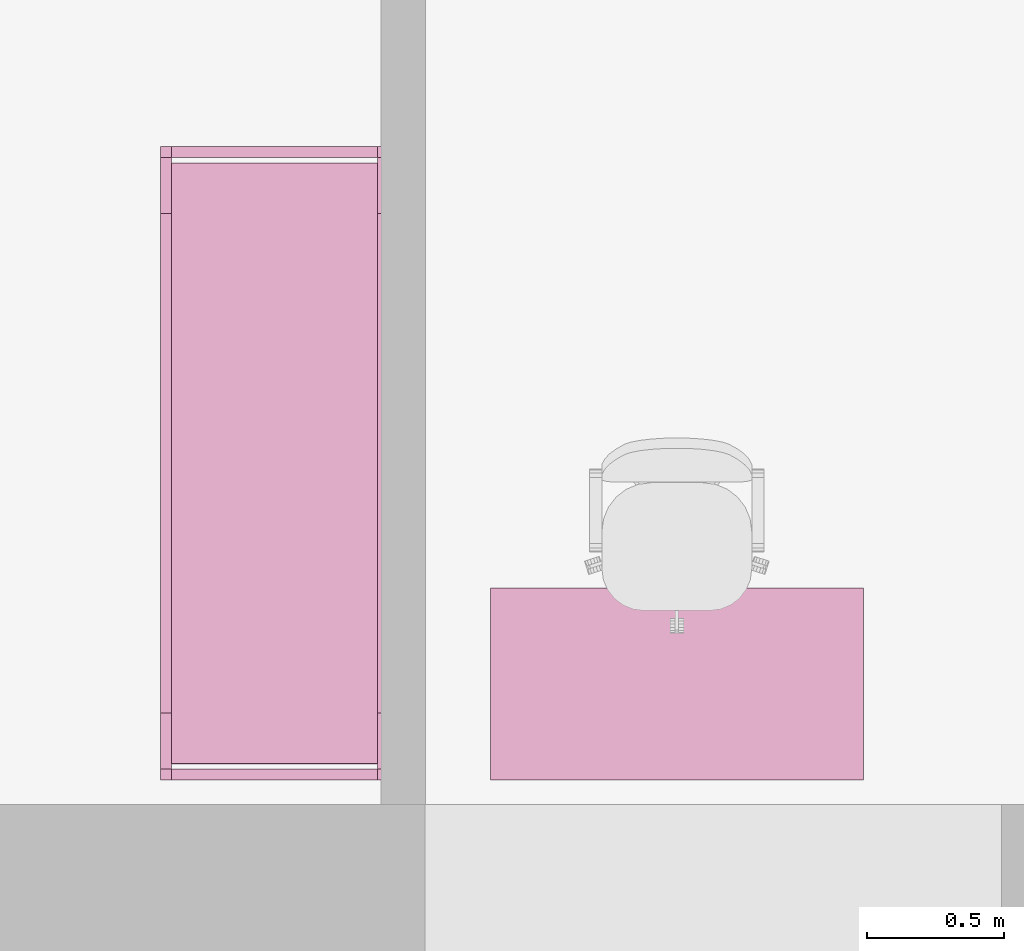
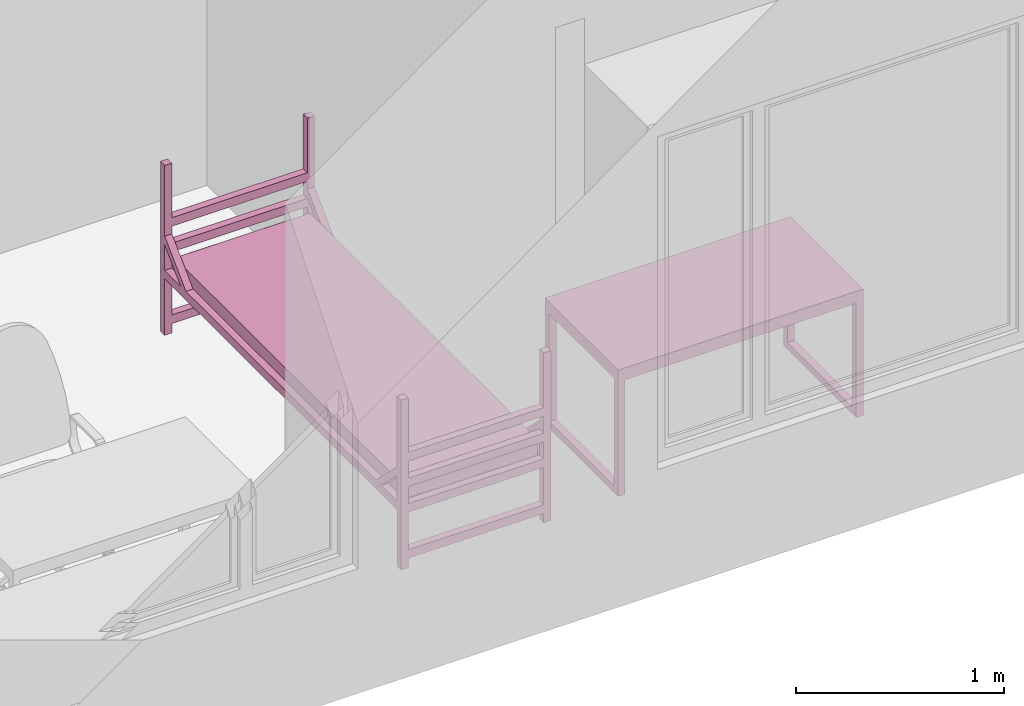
# One storey, part 34 of 46: 2 furnishings.
"""IFC2X3 building model written with IfcOpenShell, lengths in millimetres."""

import ifcopenshell
import ifcopenshell.guid

model = None  # the IFC model being written
_history = None  # IfcOwnerHistory: only IFC2X3 demands one
_inside = {}  # id of a spatial element -> (the spatial element, [elements in it])
_under = {}  # id of a project, library or spatial element -> (it, [spatial elements below it])
_declared = {}  # id of a project -> (the project, [libraries it declares])
_typed = {}  # id of a type object -> (the type object, [elements of that type])
_made_of = {}  # id of a material, layer set ... -> (it, [elements and type objects made of it])


def new_model(schema):
    """Start an empty IFC model of exactly this schema.

    Asked for "IFC4X3", IfcOpenShell would pick the latest addendum, in which some entities
    have other attributes; the version numbers below select the first issue.
    IFC2X3 requires an IfcOwnerHistory on every rooted entity: one is made here for all.
    """
    global model, _history
    if schema == "IFC4X3":
        model = ifcopenshell.file(schema_version=(4, 3, 0, 0))
    else:
        model = ifcopenshell.file(schema=schema)
    _inside.clear()
    _under.clear()
    _declared.clear()
    _typed.clear()
    _made_of.clear()
    _history = None
    if model.schema == "IFC2X3":
        org = make("IfcOrganization", Name="unknown")
        user = make(
            "IfcPersonAndOrganization",
            ThePerson=make("IfcPerson", FamilyName="unknown"),
            TheOrganization=org,
        )
        app = make(
            "IfcApplication",
            ApplicationDeveloper=org,
            Version="unknown",
            ApplicationFullName="unknown",
            ApplicationIdentifier="unknown",
        )
        _history = make(
            "IfcOwnerHistory",
            OwningUser=user,
            OwningApplication=app,
            ChangeAction="ADDED",
            CreationDate=0,
        )
    return model


def make(cls, **values):
    """One entity of the class cls with the attributes given. An attribute that is None is left unset."""
    return model.create_entity(
        cls, **{name: value for name, value in values.items() if value is not None}
    )


def entity(cls, *values):
    """Any entity or typed value of the class cls, its attributes in the order of the schema. None: left unset."""
    e = model.create_entity(cls)
    for i, value in enumerate(values):
        if value is not None:
            e[i] = value
    return e


def rooted(cls, **values):
    """An entity with a GlobalId (a new one), such as an element, a storey or a relation."""
    return make(cls, GlobalId=ifcopenshell.guid.new(), OwnerHistory=_history, **values)


def si_unit(unit_type, name, prefix=None):
    """IfcSIUnit, for example si_unit("LENGTHUNIT", "METRE", prefix="MILLI")."""
    return make("IfcSIUnit", UnitType=unit_type, Prefix=prefix, Name=name)


def converted_unit(unit_type, name, factor, base, dimensions=None, offset=None):
    """IfcConversionBasedUnit, such as the inch: factor (a typed value) times the base unit."""
    return make(
        "IfcConversionBasedUnit"
        if offset is None
        else "IfcConversionBasedUnitWithOffset",
        ConversionOffset=offset,
        Dimensions=None
        if dimensions is None
        else entity("IfcDimensionalExponents", *dimensions),
        UnitType=unit_type,
        Name=name,
        ConversionFactor=make(
            "IfcMeasureWithUnit", ValueComponent=factor, UnitComponent=base
        ),
    )


def derived_unit(unit_type, elements):
    """IfcDerivedUnit: a product of units, each with its exponent."""
    return make(
        "IfcDerivedUnit",
        Elements=[
            make("IfcDerivedUnitElement", Unit=unit, Exponent=power)
            for unit, power in elements
        ],
        UnitType=unit_type,
    )


def assignment(units):
    """IfcUnitAssignment: the units of a project."""
    return None if units is None else make("IfcUnitAssignment", Units=units)


def point(xyz):
    """IfcCartesianPoint."""
    return None if xyz is None else make("IfcCartesianPoint", Coordinates=xyz)


def direction(xyz):
    """IfcDirection."""
    return None if xyz is None else make("IfcDirection", DirectionRatios=xyz)


def frame(location, z_axis=None, x_axis=None):
    """IfcAxis2Placement3D, a coordinate frame: its origin and axes. An axis left out is left unset."""
    return make(
        "IfcAxis2Placement3D",
        Location=point(location),
        Axis=direction(z_axis),
        RefDirection=direction(x_axis),
    )


def frame_2d(location, x_axis=None):
    """IfcAxis2Placement2D, a coordinate frame in the plane: its origin and x axis."""
    return make(
        "IfcAxis2Placement2D", Location=point(location), RefDirection=direction(x_axis)
    )


def origin():
    """The frame at (0, 0, 0) with its axes left unset."""
    return frame((0.0, 0.0, 0.0))


def place(relative_to, where):
    """IfcLocalPlacement: puts the frame where relative to a parent placement (None: the world)."""
    return make(
        "IfcLocalPlacement", PlacementRelTo=relative_to, RelativePlacement=where
    )


def context(
    kind, dimensions, precision=None, world=None, true_north=None, identifier=None
):
    """IfcGeometricRepresentationContext, for example the 3D "Model" context."""
    return make(
        "IfcGeometricRepresentationContext",
        ContextIdentifier=identifier,
        ContextType=kind,
        CoordinateSpaceDimension=dimensions,
        Precision=precision,
        WorldCoordinateSystem=world,
        TrueNorth=true_north,
    )


def subcontext(parent, identifier, kind, view, scale=None):
    """IfcGeometricRepresentationSubContext, for example "Body" below "Model"."""
    return make(
        "IfcGeometricRepresentationSubContext",
        ContextIdentifier=identifier,
        ContextType=kind,
        ParentContext=parent,
        TargetScale=scale,
        TargetView=view,
    )


def project(units=None, contexts=None):
    """IfcProject with its units and contexts."""
    return rooted(
        "IfcProject",
        Name="project",
        RepresentationContexts=contexts,
        UnitsInContext=assignment(units),
    )


def spatial(cls, under=None, at=None, **own):
    """A site, building, storey or space (cls), placed at a placement, below another one or the project."""
    s = rooted(cls, ObjectPlacement=at, **own)
    if under is not None:
        _under.setdefault(under.id(), (under, []))[1].append(s)
    return s


def polyline(points):
    """IfcPolyline through the points."""
    return make("IfcPolyline", Points=[point(p) for p in points])


def circle_curve(where, radius):
    """IfcCircle in the frame where."""
    return make("IfcCircle", Position=where, Radius=radius)


def parameter(value):
    """IfcParameterValue: where a trimmed curve begins or ends, as a parameter of its basis curve."""
    return model.create_entity("IfcParameterValue", value)


def trimmed(basis, trim1, trim2, sense, master):
    """IfcTrimmedCurve: the piece of a basis curve between two trims."""
    return make(
        "IfcTrimmedCurve",
        BasisCurve=basis,
        Trim1=trim1,
        Trim2=trim2,
        SenseAgreement=sense,
        MasterRepresentation=master,
    )


def segment(curve, same_sense, transition):
    """IfcCompositeCurveSegment."""
    return make(
        "IfcCompositeCurveSegment",
        Transition=transition,
        SameSense=same_sense,
        ParentCurve=curve,
    )


def composite_curve(segments, self_intersect=None):
    """IfcCompositeCurve: segments joined end to end."""
    return make("IfcCompositeCurve", Segments=segments, SelfIntersect=self_intersect)


def profile(cls, at=None, kind="AREA", **sizes):
    """A parametric profile (cls). Its sizes go by their IFC names, for example OverallWidth=200.0."""
    return make(cls, ProfileType=kind, Position=at, **sizes)


def rectangle(**sizes):
    """IfcRectangleProfileDef."""
    return profile("IfcRectangleProfileDef", **sizes)


def outline(outer, holes=None, kind="AREA"):
    """IfcArbitraryClosedProfileDef: a profile drawn as a closed curve; with holes, ...WithVoids."""
    if holes is None:
        return make("IfcArbitraryClosedProfileDef", ProfileType=kind, OuterCurve=outer)
    return make(
        "IfcArbitraryProfileDefWithVoids",
        ProfileType=kind,
        OuterCurve=outer,
        InnerCurves=holes,
    )


def extrude(swept, where, along, depth):
    """IfcExtrudedAreaSolid: the profile swept, set in the frame where, extruded along a direction by depth."""
    return make(
        "IfcExtrudedAreaSolid",
        SweptArea=swept,
        Position=where,
        ExtrudedDirection=direction(along),
        Depth=depth,
    )


def faces_of(points, faces, orient=None, outer=None):
    """IfcFace entities. A face is a list of loops; a loop is a list of indices into points, from 0.

    orient and outer hold one flag for each loop. By default every Orientation is true, the
    first loop of a face is its IfcFaceOuterBound and the others are IfcFaceBound.
    """
    made = []
    for i, loops in enumerate(faces):
        bounds = []
        for j, loop in enumerate(loops):
            is_outer = j == 0 if outer is None else outer[i][j]
            bounds.append(
                make(
                    "IfcFaceOuterBound" if is_outer else "IfcFaceBound",
                    Bound=make("IfcPolyLoop", Polygon=[points[k] for k in loop]),
                    Orientation=True if orient is None else orient[i][j],
                )
            )
        made.append(make("IfcFace", Bounds=bounds))
    return made


def faceted_brep(points, faces, orient=None, outer=None, voids=None):
    """IfcFacetedBrep: a solid bounded by flat faces; with voids (closed shells), ...WithVoids."""
    shared = [point(p) for p in points]
    hull = make("IfcClosedShell", CfsFaces=faces_of(shared, faces, orient, outer))
    if voids is None:
        return make("IfcFacetedBrep", Outer=hull)
    return make(
        "IfcFacetedBrepWithVoids",
        Outer=hull,
        Voids=[
            make(cls, CfsFaces=faces_of(shared, fs, o, b)) for cls, fs, o, b in voids
        ],
    )


def shape(context_of_items, identifier, shape_type, items):
    """IfcShapeRepresentation: the items that make up one representation, for example the "Body"."""
    return make(
        "IfcShapeRepresentation",
        ContextOfItems=context_of_items,
        RepresentationIdentifier=identifier,
        RepresentationType=shape_type,
        Items=items,
    )


def source(mapping_origin, context_of_items, identifier, shape_type, items):
    """IfcRepresentationMap: a shape defined once, which mapped items show again and again."""
    return make(
        "IfcRepresentationMap",
        MappingOrigin=mapping_origin,
        MappedRepresentation=shape(context_of_items, identifier, shape_type, items),
    )


def transform(
    local_origin,
    x_axis=None,
    y_axis=None,
    z_axis=None,
    scale=None,
    scale2=None,
    scale3=None,
    uniform=True,
):
    """IfcCartesianTransformationOperator3D, or its non-uniform kind. x_axis, y_axis, z_axis: its Axis1, 2, 3."""
    if uniform:
        return make(
            "IfcCartesianTransformationOperator3D",
            Axis1=direction(x_axis),
            Axis2=direction(y_axis),
            LocalOrigin=point(local_origin),
            Scale=scale,
            Axis3=direction(z_axis),
        )
    return make(
        "IfcCartesianTransformationOperator3DnonUniform",
        Axis1=direction(x_axis),
        Axis2=direction(y_axis),
        LocalOrigin=point(local_origin),
        Scale=scale,
        Axis3=direction(z_axis),
        Scale2=scale2,
        Scale3=scale3,
    )


def mapped(mapping_source, mapping_target):
    """IfcMappedItem: shows the shape of a source again, moved by a transform."""
    return make(
        "IfcMappedItem", MappingSource=mapping_source, MappingTarget=mapping_target
    )


def material(Name=None, Category=None):
    """IfcMaterial."""
    return make("IfcMaterial", Name=Name, Category=Category)


def material_list(materials):
    """IfcMaterialList."""
    return make("IfcMaterialList", Materials=materials)


def made_of(thing, what):
    """Note that an element or type object is made of a material, layer set ...; save() writes the relation."""
    if what is not None:
        _made_of.setdefault(what.id(), (what, []))[1].append(thing)
    return thing


def type_object(cls, material=None, **own):
    """A type object (cls), such as IfcWallType, which elements share."""
    return made_of(rooted(cls, **own), material)


def type_shapes(of_type, sources):
    """Give a type object the sources (RepresentationMaps) that its elements show as mapped items."""
    of_type.RepresentationMaps = sources


def element(
    cls,
    number,
    at=None,
    inside=None,
    cuts=None,
    type_object=None,
    material=None,
    context=None,
    identifier="Body",
    shape_type=None,
    held_by="IfcProductDefinitionShape",
    body=None,
    shapes=None,
    **own,
):
    """One element of the class cls, such as IfcWall. Its Tag is "e" and its number.

    at: its placement. inside: the storey or other place that contains it. cuts: it is an
    opening in that element (IfcRelVoidsElement). A single representation is given by context,
    identifier, shape_type and body (its items); several are given by shapes. held_by: the class
    of the entity that holds the representations. save() writes the other relations.
    """
    e = rooted(cls, Tag="e%d" % number, ObjectPlacement=at, **own)
    if body is not None:
        shapes = [shape(context, identifier, shape_type, body)]
    if shapes is not None:
        e.Representation = make(held_by, Representations=shapes)
    if inside is not None:
        _inside.setdefault(inside.id(), (inside, []))[1].append(e)
    if cuts is not None:
        rooted(
            "IfcRelVoidsElement", RelatingBuildingElement=cuts, RelatedOpeningElement=e
        )
    if type_object is not None:
        _typed.setdefault(type_object.id(), (type_object, []))[1].append(e)
    return made_of(e, material)


def aggregate(whole, parts):
    """IfcRelAggregates: a whole, such as a stair, and the parts it consists of."""
    return rooted("IfcRelAggregates", RelatingObject=whole, RelatedObjects=parts)


def save(model, path):
    """Write the relations noted so far, then the file.

    IfcRelAggregates (storeys below a building ...), IfcRelContainedInSpatialStructure (elements
    in a storey), IfcRelDefinesByType, IfcRelAssociatesMaterial and IfcRelDeclares: one each for
    every whole, place, type object, material and project.
    """
    for whole, parts in _under.values():
        aggregate(whole, parts)
    for where, things in _inside.values():
        rooted(
            "IfcRelContainedInSpatialStructure",
            RelatedElements=things,
            RelatingStructure=where,
        )
    for kind, things in _typed.values():
        rooted("IfcRelDefinesByType", RelatedObjects=things, RelatingType=kind)
    for what, things in _made_of.values():
        rooted("IfcRelAssociatesMaterial", RelatedObjects=things, RelatingMaterial=what)
    for by, libraries in _declared.values():
        rooted("IfcRelDeclares", RelatingContext=by, RelatedDefinitions=libraries)
    model.write(path)


model = new_model("IFC2X3")

# Units and contexts
model_context = context("Model", 3, precision=0.01, world=origin(), true_north=direction((6.12303176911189e-17, 1.0)))
body_context = subcontext(model_context, "Body", "Model", "MODEL_VIEW")
ifc_project = project(units=[si_unit("LENGTHUNIT", "METRE", prefix="MILLI"), si_unit("AREAUNIT", "SQUARE_METRE"), si_unit("VOLUMEUNIT", "CUBIC_METRE"), converted_unit("PLANEANGLEUNIT", "DEGREE", entity("IfcRatioMeasure", 0.0174532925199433), si_unit("PLANEANGLEUNIT", "RADIAN"), dimensions=[0, 0, 0, 0, 0, 0, 0]), si_unit("MASSUNIT", "GRAM", prefix="KILO"), derived_unit("MASSDENSITYUNIT", [(si_unit("MASSUNIT", "GRAM", prefix="KILO"), 1), (si_unit("LENGTHUNIT", "METRE"), -3)]), si_unit("TIMEUNIT", "SECOND"), si_unit("FREQUENCYUNIT", "HERTZ"), si_unit("THERMODYNAMICTEMPERATUREUNIT", "DEGREE_CELSIUS"), derived_unit("THERMALTRANSMITTANCEUNIT", [(si_unit("MASSUNIT", "GRAM", prefix="KILO"), 1), (si_unit("THERMODYNAMICTEMPERATUREUNIT", "KELVIN"), -1), (si_unit("TIMEUNIT", "SECOND"), -3)]), derived_unit("VOLUMETRICFLOWRATEUNIT", [(si_unit("LENGTHUNIT", "METRE"), 3), (si_unit("TIMEUNIT", "SECOND"), -1)]), si_unit("ELECTRICCURRENTUNIT", "AMPERE"), si_unit("ELECTRICVOLTAGEUNIT", "VOLT"), si_unit("POWERUNIT", "WATT"), si_unit("FORCEUNIT", "NEWTON", prefix="KILO"), si_unit("ILLUMINANCEUNIT", "LUX"), si_unit("LUMINOUSFLUXUNIT", "LUMEN"), si_unit("LUMINOUSINTENSITYUNIT", "CANDELA"), derived_unit("USERDEFINED", [(si_unit("MASSUNIT", "GRAM", prefix="KILO"), -1), (si_unit("LENGTHUNIT", "METRE"), -2), (si_unit("TIMEUNIT", "SECOND"), 3), (si_unit("LUMINOUSFLUXUNIT", "LUMEN"), 1)]), derived_unit("LINEARVELOCITYUNIT", [(si_unit("LENGTHUNIT", "METRE"), 1), (si_unit("TIMEUNIT", "SECOND"), -1)]), si_unit("PRESSUREUNIT", "PASCAL"), derived_unit("USERDEFINED", [(si_unit("LENGTHUNIT", "METRE"), -2), (si_unit("MASSUNIT", "GRAM", prefix="KILO"), 1), (si_unit("TIMEUNIT", "SECOND"), -2)]), derived_unit("LINEARFORCEUNIT", [(si_unit("MASSUNIT", "GRAM", prefix="KILO"), 1), (si_unit("LENGTHUNIT", "METRE"), 1), (si_unit("TIMEUNIT", "SECOND"), -2), (si_unit("LENGTHUNIT", "METRE"), -1)]), derived_unit("PLANARFORCEUNIT", [(si_unit("MASSUNIT", "GRAM", prefix="KILO"), 1), (si_unit("LENGTHUNIT", "METRE"), 1), (si_unit("TIMEUNIT", "SECOND"), -2), (si_unit("LENGTHUNIT", "METRE"), -2)])], contexts=[model_context])

# Site, building, storey, space
site_placement = place(None, origin())
site = spatial("IfcSite", under=ifc_project, at=site_placement, Name="Default", CompositionType="ELEMENT")
building_placement = place(site_placement, origin())
building = spatial("IfcBuilding", under=site, at=building_placement, Name="SMA ARH", CompositionType="ELEMENT")
storey_placement = place(building_placement, origin())
storey = spatial("IfcBuildingStorey", under=building, at=storey_placement, Name="1 Korrus", CompositionType="ELEMENT", Elevation=0.0)
space_1_placement = place(storey_placement, origin())
space_1 = spatial("IfcSpace", under=storey, at=space_1_placement, Name="1-12", CompositionType="ELEMENT", InteriorOrExteriorSpace="INTERNAL")

# Furnishing
ifc_material_1 = material(Name="Madrats")
furniture_type_1 = type_object("IfcFurnitureType", Name="Kasarmu voodi ühekordne 2308x830:Kasarmu voodi ühekordne 2308x830", material=ifc_material_1)
shared_shape_1 = source(origin(), body_context, "Body", "SweptSolid", [
    extrude(rectangle(XDim=39.9999999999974, YDim=750.000000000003, at=frame_2d((-1.35003119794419e-13, -2.8421709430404e-14), x_axis=(1.0, 0.0))), frame((1.68638457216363, -1226.7969571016, 55.0), z_axis=(0.0, 0.0, 1.0), x_axis=(0.0, -1.0, 0.0)), (0.0, 0.0, 1.0), 49.9999999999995),
    extrude(rectangle(XDim=39.9999999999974, YDim=750.000000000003, at=frame_2d((-1.35003119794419e-13, -2.8421709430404e-14), x_axis=(1.0, 0.0))), frame((1.68638457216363, -1226.7969571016, 325.0), z_axis=(0.0, 0.0, 1.0), x_axis=(0.0, -1.0, 0.0)), (0.0, 0.0, 1.0), 49.9999999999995),
    extrude(rectangle(XDim=39.9999999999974, YDim=750.000000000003, at=frame_2d((-1.35003119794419e-13, -2.8421709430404e-14), x_axis=(1.0, 0.0))), frame((1.68638457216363, -1226.7969571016, 475.0), z_axis=(0.0, 0.0, 1.0), x_axis=(0.0, -1.0, 0.0)), (0.0, 0.0, 1.0), 49.9999999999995),
    extrude(rectangle(XDim=39.9999999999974, YDim=750.000000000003, at=frame_2d((-1.35003119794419e-13, -2.8421709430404e-14), x_axis=(1.0, 0.0))), frame((1.68638457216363, -1226.7969571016, 625.0), z_axis=(0.0, 0.0, 1.0), x_axis=(0.0, -1.0, 0.0)), (0.0, 0.0, 1.0), 50.0000000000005),
    extrude(rectangle(XDim=39.9999999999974, YDim=750.000000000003, at=frame_2d((1.35003119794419e-13, -2.8421709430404e-14), x_axis=(1.0, 0.0))), frame((1.68638457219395, 1041.2030428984, 55.0), z_axis=(0.0, 0.0, 1.0), x_axis=(0.0, -1.0, 0.0)), (0.0, 0.0, 1.0), 50.0000000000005),
    extrude(rectangle(XDim=39.9999999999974, YDim=750.000000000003, at=frame_2d((1.35003119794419e-13, -2.8421709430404e-14), x_axis=(1.0, 0.0))), frame((1.68638457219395, 1041.2030428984, 325.0), z_axis=(0.0, 0.0, 1.0), x_axis=(0.0, -1.0, 0.0)), (0.0, 0.0, 1.0), 50.0000000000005),
    extrude(rectangle(XDim=39.9999999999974, YDim=750.000000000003, at=frame_2d((1.35003119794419e-13, -2.8421709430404e-14), x_axis=(1.0, 0.0))), frame((1.68638457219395, 1041.2030428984, 475.0), z_axis=(0.0, 0.0, 1.0), x_axis=(0.0, -1.0, 0.0)), (0.0, 0.0, 1.0), 50.0000000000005),
    extrude(rectangle(XDim=39.9999999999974, YDim=750.000000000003, at=frame_2d((1.35003119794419e-13, -2.8421709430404e-14), x_axis=(1.0, 0.0))), frame((1.68638457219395, 1041.2030428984, 625.0), z_axis=(0.0, 0.0, 1.0), x_axis=(0.0, -1.0, 0.0)), (0.0, 0.0, 1.0), 49.9999999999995),
    extrude(outline(composite_curve([segment(trimmed(circle_curve(frame_2d((1085.0, -40.0), x_axis=(1.0, 0.0)), 10.0), [parameter(270.0)], [parameter(0.0)], True, "PARAMETER"), True, "CONTINUOUS"), segment(polyline([(1095.0, -40.0), (1095.0, 40.0)]), True, "CONTINUOUS"), segment(trimmed(circle_curve(frame_2d((1085.0, 40.0), x_axis=(1.0, 0.0)), 10.0), [parameter(0.0)], [parameter(90.0000000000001)], True, "PARAMETER"), True, "CONTINUOUS"), segment(polyline([(1085.0, 50.0), (-1085.0, 50.0)]), True, "CONTINUOUS"), segment(trimmed(circle_curve(frame_2d((-1085.0, 40.0), x_axis=(1.0, 0.0)), 10.0), [parameter(90.0000000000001)], [parameter(180.0)], True, "PARAMETER"), True, "CONTINUOUS"), segment(polyline([(-1095.0, 40.0), (-1095.0, -40.0)]), True, "CONTINUOUS"), segment(trimmed(circle_curve(frame_2d((-1085.0, -40.0), x_axis=(1.0, 0.0)), 10.0), [parameter(180.0)], [parameter(270.0)], True, "PARAMETER"), True, "CONTINUOUS"), segment(polyline([(-1085.0, -50.0), (1085.0, -50.0)]), True, "CONTINUOUS")], self_intersect=False)), frame((-373.313615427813, -92.7969571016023, 405.0), z_axis=(1.0, 0.0, 0.0), x_axis=(0.0, -1.0, 0.0)), (0.0, 0.0, 1.0), 750.000000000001),
    extrude(outline(polyline([(-1114.0, -100.0), (1114.0, -100.0), (1114.0, -50.0), (961.59199141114, -50.0), (1114.0, 100.0), (1114.0, 150.0), (910.789321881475, -50.0), (-910.789321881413, -50.0), (-1114.0, 150.0), (-1114.0, 100.0), (-961.591991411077, -50.0), (-1114.0, -50.0), (-1114.0, -100.0)])), frame((-413.313615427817, -92.7969571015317, 430.0), z_axis=(1.0, 0.0, 0.0), x_axis=(0.0, 1.0, 0.0)), (0.0, 0.0, 1.0), 39.9999999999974),
    extrude(outline(polyline([(-1114.0, -100.0), (1114.0, -100.0), (1114.0, -50.0), (961.591991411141, -50.0), (1114.0, 100.0), (1114.0, 150.0), (910.789321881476, -50.0), (-910.789321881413, -50.0), (-1114.0, 150.0), (-1114.0, 100.0), (-961.591991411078, -50.0), (-1114.0, -50.0), (-1114.0, -100.0)])), frame((376.686384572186, -92.796957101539, 430.0), z_axis=(1.0, 0.0, 0.0), x_axis=(0.0, 1.0, 0.0)), (0.0, 0.0, 1.0), 39.9999999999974),
    extrude(rectangle(XDim=39.9999999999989, YDim=39.9999999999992, at=frame_2d((-6.75015598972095e-14, 0.0), x_axis=(1.0, 0.0))), frame((396.686384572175, -1226.79695710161, 0.0), z_axis=(0.0, 0.0, 1.0), x_axis=(0.0, 1.0, 0.0)), (0.0, 0.0, 1.0), 995.0),
    extrude(rectangle(XDim=39.9999999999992, YDim=39.9999999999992, at=frame_2d((-1.35003119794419e-13, 0.0), x_axis=(1.0, 0.0))), frame((396.686384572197, 1041.20304289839, 0.0), z_axis=(0.0, 0.0, 1.0), x_axis=(0.0, 1.0, 0.0)), (0.0, 0.0, 1.0), 995.0),
    extrude(rectangle(XDim=40.0000000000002, YDim=39.9999999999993, at=frame_2d((-1.35003119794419e-13, 0.0), x_axis=(1.0, 0.0))), frame((-393.313615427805, 1041.2030428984, 0.0), z_axis=(0.0, 0.0, 1.0), x_axis=(0.0, 1.0, 0.0)), (0.0, 0.0, 1.0), 995.0),
    extrude(rectangle(XDim=39.9999999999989, YDim=39.9999999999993, at=frame_2d((-6.75015598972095e-14, 0.0), x_axis=(1.0, 0.0))), frame((-393.313615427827, -1226.7969571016, 0.0), z_axis=(0.0, 0.0, 1.0), x_axis=(0.0, 1.0, 0.0)), (0.0, 0.0, 1.0), 995.0),
])
type_shapes(furniture_type_1, [shared_shape_1])
furnishing_1_placement = place(space_1_placement, frame((15772.1863845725, 1151.20304289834, 0.0), z_axis=(0.0, 0.0, 1.0), x_axis=(-1.0, 0.0, 0.0)))
element("IfcFurnishingElement", 1, at=furnishing_1_placement, inside=space_1, type_object=furniture_type_1, material=ifc_material_1, Name="Kasarmu voodi ühekordne 2308x830:Kasarmu voodi ühekordne 2308x830", ObjectType="Kasarmu voodi ühekordne 2308x830:Kasarmu voodi ühekordne 2308x830", context=body_context, shape_type="MappedRepresentation", body=[
    mapped(shared_shape_1, transform((0.0, 0.0, 0.0), scale=1.0)),
])

# Space
space_2_placement = place(storey_placement, origin())
space_2 = spatial("IfcSpace", under=storey, at=space_2_placement, Name="1-9", CompositionType="ELEMENT", InteriorOrExteriorSpace="INTERNAL")

# Furnishing
ifc_material_2 = material(Name="<Unnamed>")
ifc_material_list = material_list([ifc_material_2, ifc_material_2])
furniture_type_2 = type_object("IfcFurnitureType", Name="kirjutuslaud 1360x700mm:kirjutuslaud 1360x700mm", material=ifc_material_list)
shared_shape_2 = source(origin(), body_context, "Body", "Brep", [
    faceted_brep([(680.0, -350.0, 720.0), (680.0, 350.0, 720.0), (680.0, 350.0, 750.0), (680.0, -350.0, 750.0), (-680.0, -350.0, 720.0), (-680.0, -350.0, 750.0), (-680.0, 350.0, 750.0), (-680.0, 350.0, 720.0)], [[[0, 1, 2, 3]], [[4, 5, 6, 7]], [[1, 0, 4, 7]], [[2, 1, 7, 6]], [[3, 2, 6, 5]], [[0, 3, 5, 4]]]),
    faceted_brep([(-640.0, -310.0, 680.0), (-640.0, 310.0, 680.0), (-640.0, 310.0, 720.0), (-640.0, -310.0, 720.0), (-680.0, -350.0, 720.0), (-680.0, 350.0, 720.0), (-680.0, 350.0, 10.0), (-680.0, -350.0, 10.0), (-680.0, 310.0, 680.0), (-680.0, -310.0, 680.0), (-680.0, -310.0, 50.0), (-680.0, 310.0, 50.0), (-640.0, -350.0, 10.0), (-640.0, -350.0, 680.0), (640.0, -350.0, 680.0), (640.0, -350.0, 10.0), (680.0, -350.0, 10.0), (680.0, -350.0, 720.0), (-640.0, 350.0, 10.0), (680.0, 350.0, 720.0), (680.0, 350.0, 10.0), (640.0, 350.0, 10.0), (640.0, 350.0, 680.0), (-640.0, 350.0, 680.0), (640.0, 310.0, 720.0), (640.0, -310.0, 720.0), (-640.0, 310.0, 50.0), (-640.0, -310.0, 50.0), (640.0, -310.0, 680.0), (640.0, 310.0, 680.0), (680.0, 310.0, 680.0), (680.0, 310.0, 50.0), (680.0, -310.0, 50.0), (680.0, -310.0, 680.0), (640.0, -310.0, 50.0), (640.0, 310.0, 50.0)], [[[0, 1, 2, 3]], [[4, 5, 6, 7], [8, 9, 10, 11]], [[4, 7, 12, 13, 14, 15, 16, 17]], [[18, 12, 7, 6]], [[6, 5, 19, 20, 21, 22, 23, 18]], [[19, 5, 4, 17], [2, 24, 25, 3]], [[26, 1, 8, 11]], [[27, 26, 11, 10]], [[0, 27, 10, 9]], [[1, 0, 9, 8]], [[14, 13, 0, 28]], [[24, 2, 1, 29]], [[3, 25, 28, 0]], [[17, 16, 20, 19], [30, 31, 32, 33]], [[21, 15, 14, 28, 34, 35, 29, 22]], [[20, 16, 15, 21]], [[31, 30, 29, 35]], [[32, 31, 35, 34]], [[33, 32, 34, 28]], [[30, 33, 28, 29]], [[29, 28, 25, 24]], [[29, 1, 23, 22]], [[12, 18, 23, 1, 26, 27, 0, 13]]]),
    faceted_brep([(-663.729456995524, -270.466136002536, 0.0), (-659.847171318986, -269.955023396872, 0.0), (-655.964885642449, -270.466136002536, 0.0), (-652.347171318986, -271.964642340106, 0.0), (-649.240569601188, -274.348421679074, 0.0), (-646.85679026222, -277.455023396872, 0.0), (-645.35828392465, -281.072737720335, 0.0), (-644.847171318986, -284.955023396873, 0.0), (-645.35828392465, -288.83730907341, 0.0), (-646.85679026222, -292.455023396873, 0.0), (-649.240569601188, -295.561625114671, 0.0), (-652.347171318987, -297.945404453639, 0.0), (-655.964885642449, -299.443910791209, 0.0), (-659.847171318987, -299.955023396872, 0.0), (-663.729456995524, -299.443910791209, 0.0), (-667.347171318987, -297.945404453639, 0.0), (-670.453773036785, -295.561625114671, 0.0), (-672.837552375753, -292.455023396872, 0.0), (-674.336058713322, -288.83730907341, 0.0), (-674.847171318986, -284.955023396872, 0.0), (-674.336058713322, -281.072737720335, 0.0), (-672.837552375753, -277.455023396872, 0.0), (-670.453773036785, -274.348421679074, 0.0), (-667.347171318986, -271.964642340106, 0.0), (-655.964885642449, -299.443910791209, 10.0), (-652.347171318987, -297.945404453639, 10.0), (-649.240569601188, -295.561625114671, 10.0), (-646.85679026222, -292.455023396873, 10.0), (-645.35828392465, -288.83730907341, 10.0), (-644.847171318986, -284.955023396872, 10.0), (-645.35828392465, -281.072737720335, 10.0), (-646.85679026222, -277.455023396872, 10.0), (-649.240569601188, -274.348421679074, 10.0), (-652.347171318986, -271.964642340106, 10.0), (-655.964885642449, -270.466136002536, 10.0), (-659.847171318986, -269.955023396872, 10.0), (-663.729456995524, -270.466136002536, 10.0), (-667.347171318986, -271.964642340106, 10.0), (-670.453773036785, -274.348421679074, 10.0), (-672.837552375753, -277.455023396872, 10.0), (-674.336058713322, -281.072737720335, 10.0), (-674.847171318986, -284.955023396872, 10.0), (-674.336058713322, -288.83730907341, 10.0), (-672.837552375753, -292.455023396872, 10.0), (-670.453773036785, -295.561625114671, 10.0), (-667.347171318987, -297.945404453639, 10.0), (-663.729456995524, -299.443910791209, 10.0), (-659.847171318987, -299.955023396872, 10.0)], [[[0, 1, 2, 3, 4, 5, 6, 7, 8, 9, 10, 11, 12, 13, 14, 15, 16, 17, 18, 19, 20, 21, 22, 23]], [[24, 25, 26, 27, 28, 29, 30, 31, 32, 33, 34, 35, 36, 37, 38, 39, 40, 41, 42, 43, 44, 45, 46, 47]], [[18, 42, 41, 19]], [[17, 43, 42, 18]], [[45, 44, 16, 15]], [[17, 16, 44, 43]], [[46, 45, 15, 14]], [[47, 46, 14, 13]], [[12, 24, 47, 13]], [[11, 25, 24, 12]], [[27, 26, 10, 9]], [[11, 10, 26, 25]], [[28, 27, 9, 8]], [[29, 28, 8, 7]], [[6, 30, 29, 7]], [[5, 31, 30, 6]], [[33, 32, 4, 3]], [[5, 4, 32, 31]], [[34, 33, 3, 2]], [[35, 34, 2, 1]], [[0, 36, 35, 1]], [[23, 37, 36, 0]], [[39, 38, 22, 21]], [[23, 22, 38, 37]], [[40, 39, 21, 20]], [[41, 40, 20, 19]]]),
    faceted_brep([(-655.964885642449, 270.466136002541, 10.0), (-652.347171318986, 271.964642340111, 10.0), (-649.240569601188, 274.348421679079, 10.0), (-646.85679026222, 277.455023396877, 10.0), (-645.35828392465, 281.07273772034, 10.0), (-644.847171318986, 284.955023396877, 10.0), (-645.35828392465, 288.837309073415, 10.0), (-646.85679026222, 292.455023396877, 10.0), (-649.240569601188, 295.561625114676, 10.0), (-652.347171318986, 297.945404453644, 10.0), (-655.964885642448, 299.443910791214, 10.0), (-659.847171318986, 299.955023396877, 10.0), (-663.729456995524, 299.443910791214, 10.0), (-667.347171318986, 297.945404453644, 10.0), (-670.453773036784, 295.561625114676, 10.0), (-672.837552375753, 292.455023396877, 10.0), (-674.336058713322, 288.837309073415, 10.0), (-674.847171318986, 284.955023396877, 10.0), (-674.336058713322, 281.07273772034, 10.0), (-672.837552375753, 277.455023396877, 10.0), (-670.453773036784, 274.348421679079, 10.0), (-667.347171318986, 271.964642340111, 10.0), (-663.729456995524, 270.466136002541, 10.0), (-659.847171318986, 269.955023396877, 10.0), (-655.964885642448, 299.443910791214, 0.0), (-652.347171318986, 297.945404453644, 0.0), (-649.240569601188, 295.561625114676, 0.0), (-646.85679026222, 292.455023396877, 0.0), (-645.35828392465, 288.837309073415, 0.0), (-644.847171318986, 284.955023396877, 0.0), (-645.35828392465, 281.07273772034, 0.0), (-646.85679026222, 277.455023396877, 0.0), (-649.240569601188, 274.348421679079, 0.0), (-652.347171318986, 271.964642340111, 0.0), (-655.964885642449, 270.466136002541, 0.0), (-659.847171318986, 269.955023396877, 0.0), (-663.729456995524, 270.466136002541, 0.0), (-667.347171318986, 271.964642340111, 0.0), (-670.453773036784, 274.348421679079, 0.0), (-672.837552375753, 277.455023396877, 0.0), (-674.336058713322, 281.07273772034, 0.0), (-674.847171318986, 284.955023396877, 0.0), (-674.336058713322, 288.837309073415, 0.0), (-672.837552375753, 292.455023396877, 0.0), (-670.453773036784, 295.561625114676, 0.0), (-667.347171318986, 297.945404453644, 0.0), (-663.729456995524, 299.443910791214, 0.0), (-659.847171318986, 299.955023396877, 0.0)], [[[0, 1, 2, 3, 4, 5, 6, 7, 8, 9, 10, 11, 12, 13, 14, 15, 16, 17, 18, 19, 20, 21, 22, 23]], [[24, 25, 26, 27, 28, 29, 30, 31, 32, 33, 34, 35, 36, 37, 38, 39, 40, 41, 42, 43, 44, 45, 46, 47]], [[40, 18, 17, 41]], [[39, 19, 18, 40]], [[21, 20, 38, 37]], [[39, 38, 20, 19]], [[22, 21, 37, 36]], [[23, 22, 36, 35]], [[34, 0, 23, 35]], [[33, 1, 0, 34]], [[3, 2, 32, 31]], [[33, 32, 2, 1]], [[4, 3, 31, 30]], [[5, 4, 30, 29]], [[28, 6, 5, 29]], [[27, 7, 6, 28]], [[9, 8, 26, 25]], [[27, 26, 8, 7]], [[10, 9, 25, 24]], [[11, 10, 24, 47]], [[46, 12, 11, 47]], [[45, 13, 12, 46]], [[15, 14, 44, 43]], [[45, 44, 14, 13]], [[16, 15, 43, 42]], [[17, 16, 42, 41]]]),
    faceted_brep([(656.270543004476, -270.466136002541, 0.0), (660.152828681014, -269.955023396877, 0.0), (664.035114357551, -270.466136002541, 0.0), (667.652828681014, -271.96464234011, 0.0), (670.759430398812, -274.348421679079, 0.0), (673.14320973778, -277.455023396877, 0.0), (674.64171607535, -281.072737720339, 0.0), (675.152828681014, -284.955023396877, 0.0), (674.64171607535, -288.837309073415, 0.0), (673.14320973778, -292.455023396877, 0.0), (670.759430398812, -295.561625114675, 0.0), (667.652828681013, -297.945404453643, 0.0), (664.035114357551, -299.443910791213, 0.0), (660.152828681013, -299.955023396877, 0.0), (656.270543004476, -299.443910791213, 0.0), (652.652828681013, -297.945404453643, 0.0), (649.546226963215, -295.561625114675, 0.0), (647.162447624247, -292.455023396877, 0.0), (645.663941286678, -288.837309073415, 0.0), (645.152828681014, -284.955023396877, 0.0), (645.663941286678, -281.072737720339, 0.0), (647.162447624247, -277.455023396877, 0.0), (649.546226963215, -274.348421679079, 0.0), (652.652828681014, -271.96464234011, 0.0), (664.035114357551, -299.443910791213, 10.0), (667.652828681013, -297.945404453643, 10.0), (670.759430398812, -295.561625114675, 10.0), (673.14320973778, -292.455023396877, 10.0), (674.64171607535, -288.837309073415, 10.0), (675.152828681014, -284.955023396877, 10.0), (674.64171607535, -281.072737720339, 10.0), (673.14320973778, -277.455023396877, 10.0), (670.759430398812, -274.348421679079, 10.0), (667.652828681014, -271.96464234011, 10.0), (664.035114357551, -270.466136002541, 10.0), (660.152828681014, -269.955023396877, 10.0), (656.270543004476, -270.466136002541, 10.0), (652.652828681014, -271.96464234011, 10.0), (649.546226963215, -274.348421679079, 10.0), (647.162447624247, -277.455023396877, 10.0), (645.663941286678, -281.072737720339, 10.0), (645.152828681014, -284.955023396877, 10.0), (645.663941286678, -288.837309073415, 10.0), (647.162447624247, -292.455023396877, 10.0), (649.546226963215, -295.561625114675, 10.0), (652.652828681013, -297.945404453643, 10.0), (656.270543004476, -299.443910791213, 10.0), (660.152828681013, -299.955023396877, 10.0)], [[[0, 1, 2, 3, 4, 5, 6, 7, 8, 9, 10, 11, 12, 13, 14, 15, 16, 17, 18, 19, 20, 21, 22, 23]], [[24, 25, 26, 27, 28, 29, 30, 31, 32, 33, 34, 35, 36, 37, 38, 39, 40, 41, 42, 43, 44, 45, 46, 47]], [[18, 42, 41, 19]], [[17, 43, 42, 18]], [[45, 44, 16, 15]], [[17, 16, 44, 43]], [[46, 45, 15, 14]], [[47, 46, 14, 13]], [[12, 24, 47, 13]], [[11, 25, 24, 12]], [[27, 26, 10, 9]], [[11, 10, 26, 25]], [[28, 27, 9, 8]], [[29, 28, 8, 7]], [[6, 30, 29, 7]], [[5, 31, 30, 6]], [[33, 32, 4, 3]], [[5, 4, 32, 31]], [[34, 33, 3, 2]], [[35, 34, 2, 1]], [[0, 36, 35, 1]], [[23, 37, 36, 0]], [[39, 38, 22, 21]], [[23, 22, 38, 37]], [[40, 39, 21, 20]], [[41, 40, 20, 19]]]),
    faceted_brep([(664.035114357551, 270.466136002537, 10.0), (667.652828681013, 271.964642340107, 10.0), (670.759430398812, 274.348421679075, 10.0), (673.14320973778, 277.455023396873, 10.0), (674.64171607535, 281.072737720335, 10.0), (675.152828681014, 284.955023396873, 10.0), (674.64171607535, 288.837309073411, 10.0), (673.14320973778, 292.455023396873, 10.0), (670.759430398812, 295.561625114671, 10.0), (667.652828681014, 297.94540445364, 10.0), (664.035114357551, 299.443910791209, 10.0), (660.152828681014, 299.955023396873, 10.0), (656.270543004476, 299.443910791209, 10.0), (652.652828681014, 297.94540445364, 10.0), (649.546226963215, 295.561625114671, 10.0), (647.162447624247, 292.455023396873, 10.0), (645.663941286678, 288.837309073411, 10.0), (645.152828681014, 284.955023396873, 10.0), (645.663941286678, 281.072737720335, 10.0), (647.162447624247, 277.455023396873, 10.0), (649.546226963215, 274.348421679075, 10.0), (652.652828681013, 271.964642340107, 10.0), (656.270543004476, 270.466136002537, 10.0), (660.152828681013, 269.955023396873, 10.0), (664.035114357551, 299.443910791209, 0.0), (667.652828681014, 297.94540445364, 0.0), (670.759430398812, 295.561625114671, 0.0), (673.14320973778, 292.455023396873, 0.0), (674.64171607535, 288.837309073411, 0.0), (675.152828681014, 284.955023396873, 0.0), (674.64171607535, 281.072737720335, 0.0), (673.14320973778, 277.455023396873, 0.0), (670.759430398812, 274.348421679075, 0.0), (667.652828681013, 271.964642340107, 0.0), (664.035114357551, 270.466136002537, 0.0), (660.152828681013, 269.955023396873, 0.0), (656.270543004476, 270.466136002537, 0.0), (652.652828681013, 271.964642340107, 0.0), (649.546226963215, 274.348421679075, 0.0), (647.162447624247, 277.455023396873, 0.0), (645.663941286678, 281.072737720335, 0.0), (645.152828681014, 284.955023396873, 0.0), (645.663941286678, 288.837309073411, 0.0), (647.162447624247, 292.455023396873, 0.0), (649.546226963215, 295.561625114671, 0.0), (652.652828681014, 297.94540445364, 0.0), (656.270543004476, 299.443910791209, 0.0), (660.152828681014, 299.955023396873, 0.0)], [[[0, 1, 2, 3, 4, 5, 6, 7, 8, 9, 10, 11, 12, 13, 14, 15, 16, 17, 18, 19, 20, 21, 22, 23]], [[24, 25, 26, 27, 28, 29, 30, 31, 32, 33, 34, 35, 36, 37, 38, 39, 40, 41, 42, 43, 44, 45, 46, 47]], [[40, 18, 17, 41]], [[39, 19, 18, 40]], [[21, 20, 38, 37]], [[39, 38, 20, 19]], [[22, 21, 37, 36]], [[23, 22, 36, 35]], [[34, 0, 23, 35]], [[33, 1, 0, 34]], [[3, 2, 32, 31]], [[33, 32, 2, 1]], [[4, 3, 31, 30]], [[5, 4, 30, 29]], [[28, 6, 5, 29]], [[27, 7, 6, 28]], [[9, 8, 26, 25]], [[27, 26, 8, 7]], [[10, 9, 25, 24]], [[11, 10, 24, 47]], [[46, 12, 11, 47]], [[45, 13, 12, 46]], [[15, 14, 44, 43]], [[45, 44, 14, 13]], [[16, 15, 43, 42]], [[17, 16, 42, 41]]]),
])
type_shapes(furniture_type_2, [shared_shape_2])
furnishing_2_placement = place(space_2_placement, frame((17237.0, 440.0, 0.0)))
element("IfcFurnishingElement", 2, at=furnishing_2_placement, inside=space_2, type_object=furniture_type_2, Name="kirjutuslaud 1360x700mm:kirjutuslaud 1360x700mm", ObjectType="kirjutuslaud 1360x700mm:kirjutuslaud 1360x700mm", context=body_context, shape_type="MappedRepresentation", body=[
    mapped(shared_shape_2, transform((0.0, 0.0, 0.0), scale=1.0)),
])

save(model, "model.ifc")
